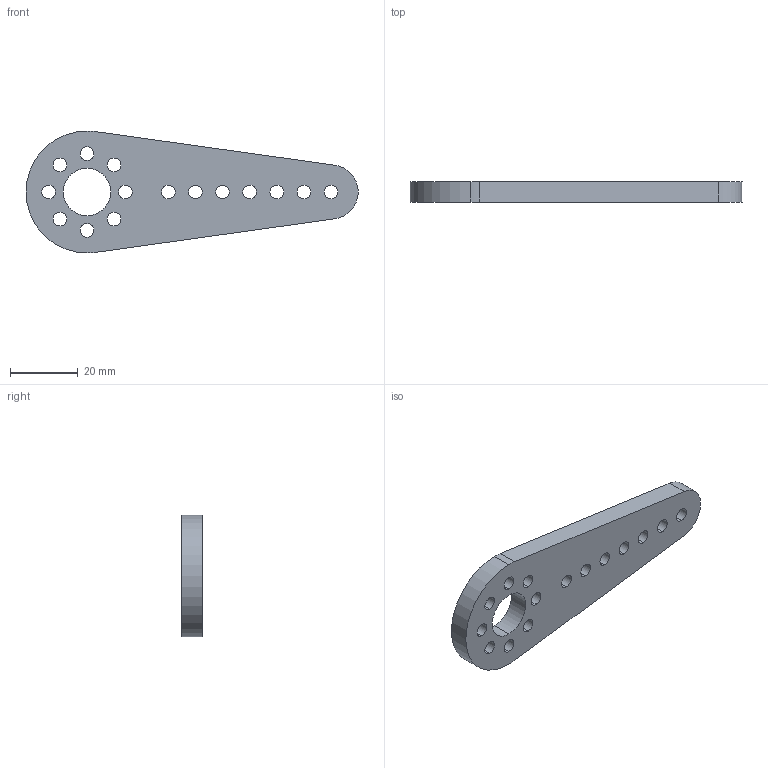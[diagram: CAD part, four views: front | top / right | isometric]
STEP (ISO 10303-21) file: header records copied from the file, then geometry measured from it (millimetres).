
FILE_DESCRIPTION (( 'STEP AP203' ), '1' );
FILE_NAME ('1916-0014-0072.STEP', '2021-05-27T18:29:53', ( '' ), ( '' ), 'SwSTEP 2.0', 'SolidWorks 2016', '' );
FILE_SCHEMA (( 'CONFIG_CONTROL_DESIGN' ));
Length unit declared in the file: millimetre
Products named in the file (1): 1916-0014-0072
Bounding box: 97.97 x 6 x 36 mm (x, y, z)
Volume: 12914.3 mm3; surface area: 7076.2 mm2
Topology: 1 solids, 1 shells, 40 faces, 114 edges, 76 vertices
Faces by surface type: cylinder 36, plane 4
Entity records: 1491 total; most frequent: DIRECTION 268, CARTESIAN_POINT 231, ORIENTED_EDGE 228, EDGE_CURVE 114, AXIS2_PLACEMENT_3D 113, VERTEX_POINT 76, EDGE_LOOP 72, CIRCLE 72
